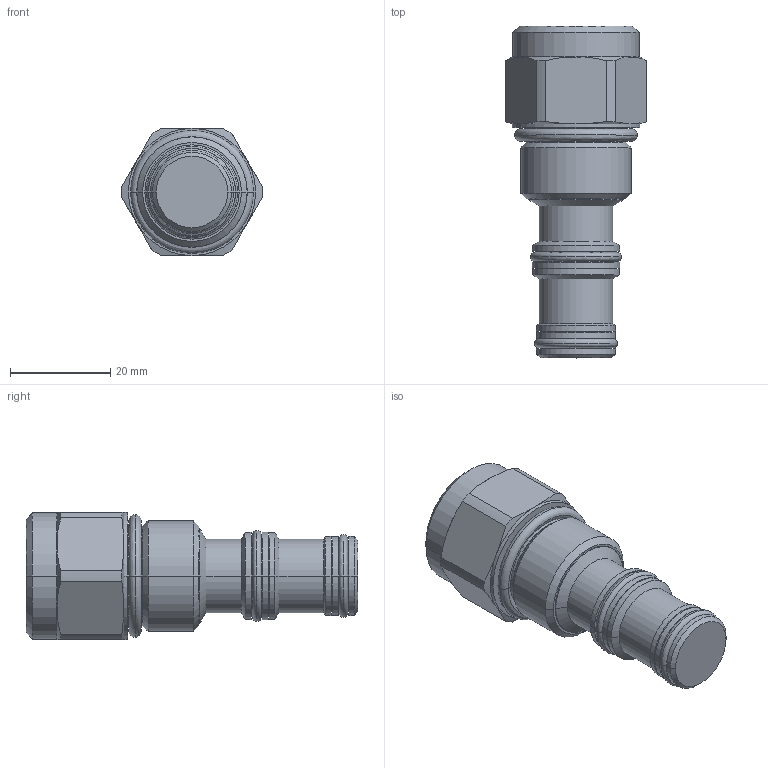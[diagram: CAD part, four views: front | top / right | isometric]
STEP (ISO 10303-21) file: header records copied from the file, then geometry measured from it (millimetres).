
FILE_DESCRIPTION((''),'2;1');
FILE_NAME('5418600_SW0003','2009-01-30T',('jcs'),(''),'PRO/ENGINEER BY PARAMETRIC TECHNOLOGY CORPORATION, 2008010','PRO/ENGINEER BY PARAMETRIC TECHNOLOGY CORPORATION, 2008010','');
FILE_SCHEMA(('CONFIG_CONTROL_DESIGN'));
Length unit declared in the file: inch
Products named in the file (1): 5418600_SW0003
Bounding box: 28.19 x 66.32 x 25.4 mm (x, y, z)
Volume: 22264.5 mm3; surface area: 6989.6 mm2
Topology: 5 solids, 5 shells, 116 faces, 244 edges, 140 vertices
Faces by surface type: cylinder 38, cone 24, revolution 24, plane 18, torus 12
Entity records: 3618 total; most frequent: CARTESIAN_POINT 1070, DIRECTION 550, ORIENTED_EDGE 488, EDGE_CURVE 244, AXIS2_PLACEMENT_3D 232, VERTEX_POINT 140, CIRCLE 140, EDGE_LOOP 126
